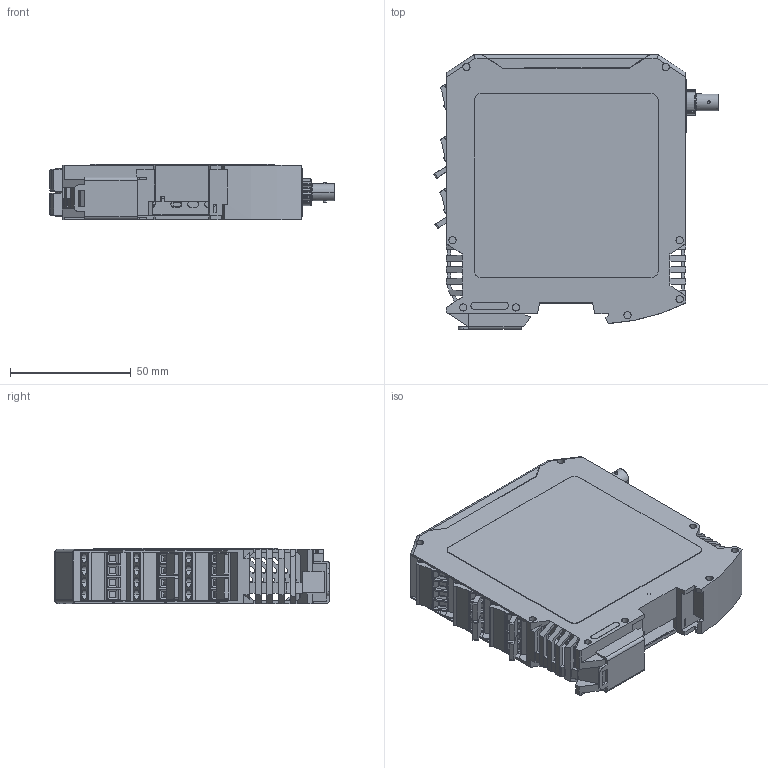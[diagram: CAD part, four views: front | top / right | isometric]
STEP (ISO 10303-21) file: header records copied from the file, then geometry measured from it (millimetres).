
FILE_DESCRIPTION (( 'STEP AP214' ), '1' );
FILE_NAME ('FTX-100-LUX+.STEP', '2015-11-17T22:19:35', ( 'Daryl' ), ( 'Microsoft' ), 'SwSTEP 2.0', 'SolidWorks 2014', '' );
FILE_SCHEMA (( 'AUTOMOTIVE_DESIGN' ));
Length unit declared in the file: millimetre
Products named in the file (1): FTX-100-LUX+
Bounding box: 117.71 x 113.78 x 22.95 mm (x, y, z)
Volume: 62782.8 mm3; surface area: 83315.2 mm2
Topology: 3 solids, 23 shells, 3888 faces, 11059 edges, 7270 vertices
Faces by surface type: plane 2524, cylinder 886, bspline 436, cone 40, torus 2
Entity records: 192144 total; most frequent: CARTESIAN_POINT 49605, ORIENTED_EDGE 22114, DIRECTION 18601, EDGE_CURVE 11057, LINE 8111, VECTOR 8111, VERTEX_POINT 7270, AXIS2_PLACEMENT_3D 5245
